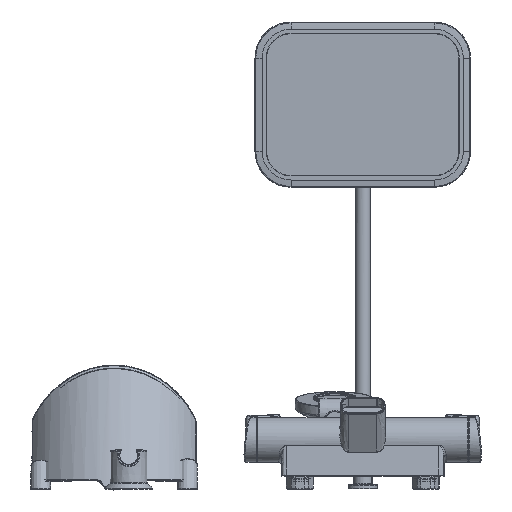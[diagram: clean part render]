
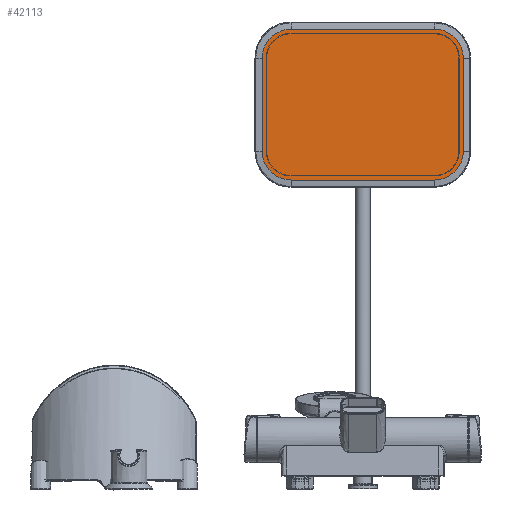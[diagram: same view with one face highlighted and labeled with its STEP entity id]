
A CAD part, front view. The second image highlights one B-rep face of the part: STEP entity #42113.
In plain terms, the highlighted planar face has unit normal (0, -1, 0).
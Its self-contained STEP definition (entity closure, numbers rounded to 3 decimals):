
#1506 = ORIENTED_EDGE ( 'NONE', *, *, #32094, .T. ) ;
#1557 = VERTEX_POINT ( 'NONE', #19048 ) ;
#2174 = VECTOR ( 'NONE', #14432, 1000. ) ;
#2341 = LINE ( 'NONE', #7480, #2174 ) ;
#3156 = CARTESIAN_POINT ( 'NONE',  ( -85.5, 1280.674, 514. ) ) ;
#3190 = DIRECTION ( 'NONE',  ( 0., 1., 0. ) ) ;
#4086 = CARTESIAN_POINT ( 'NONE',  ( -85.5, 1280.674, 403. ) ) ;
#6065 = CARTESIAN_POINT ( 'NONE',  ( 119.898, 1280.674, 514. ) ) ;
#6649 = DIRECTION ( 'NONE',  ( 0., 0., -1. ) ) ;
#7041 = CARTESIAN_POINT ( 'NONE',  ( -119.898, 1280.674, 514. ) ) ;
#7209 = ORIENTED_EDGE ( 'NONE', *, *, #20896, .T. ) ;
#7480 = CARTESIAN_POINT ( 'NONE',  ( 119.898, 1280.674, 514. ) ) ;
#7587 = DIRECTION ( 'NONE',  ( 0., 0., -1. ) ) ;
#7867 = EDGE_CURVE ( 'NONE', #1557, #44023, #38136, .T. ) ;
#8332 = VECTOR ( 'NONE', #13492, 1000. ) ;
#8459 = DIRECTION ( 'NONE',  ( 0., -1., 0. ) ) ;
#8538 = LINE ( 'NONE', #13185, #8332 ) ;
#9285 = ORIENTED_EDGE ( 'NONE', *, *, #24033, .T. ) ;
#9741 = ORIENTED_EDGE ( 'NONE', *, *, #7867, .T. ) ;
#10513 = DIRECTION ( 'NONE',  ( 0., 0., -1. ) ) ;
#11192 = ORIENTED_EDGE ( 'NONE', *, *, #35080, .T. ) ;
#11506 = VERTEX_POINT ( 'NONE', #43691 ) ;
#13185 = CARTESIAN_POINT ( 'NONE',  ( 85.5, 1280.674, 548.398 ) ) ;
#13492 = DIRECTION ( 'NONE',  ( -1., 0., 0. ) ) ;
#14432 = DIRECTION ( 'NONE',  ( 0., 0., 1. ) ) ;
#14461 = VERTEX_POINT ( 'NONE', #6065 ) ;
#15212 = ORIENTED_EDGE ( 'NONE', *, *, #16982, .T. ) ;
#15899 = CIRCLE ( 'NONE', #16852, 34.398 ) ;
#16837 = ORIENTED_EDGE ( 'NONE', *, *, #27850, .T. ) ;
#16852 = AXIS2_PLACEMENT_3D ( 'NONE', #20007, #44033, #23505 ) ;
#16982 = EDGE_CURVE ( 'NONE', #44023, #32919, #15899, .T. ) ;
#17896 = ORIENTED_EDGE ( 'NONE', *, *, #38082, .T. ) ;
#18773 = VERTEX_POINT ( 'NONE', #27894 ) ;
#19048 = CARTESIAN_POINT ( 'NONE',  ( -85.5, 1280.674, 368.602 ) ) ;
#20007 = CARTESIAN_POINT ( 'NONE',  ( 85.5, 1280.674, 403. ) ) ;
#20101 = DIRECTION ( 'NONE',  ( 1., 0., 0. ) ) ;
#20896 = EDGE_CURVE ( 'NONE', #25805, #33385, #8538, .T. ) ;
#21448 = AXIS2_PLACEMENT_3D ( 'NONE', #4086, #28355, #7587 ) ;
#21718 = CIRCLE ( 'NONE', #21448, 34.398 ) ;
#22764 = CARTESIAN_POINT ( 'NONE',  ( 119.898, 1280.674, 403. ) ) ;
#23505 = DIRECTION ( 'NONE',  ( 0., 0., -1. ) ) ;
#24033 = EDGE_CURVE ( 'NONE', #32919, #14461, #2341, .T. ) ;
#25805 = VERTEX_POINT ( 'NONE', #26629 ) ;
#26629 = CARTESIAN_POINT ( 'NONE',  ( 85.5, 1280.674, 548.398 ) ) ;
#26880 = CIRCLE ( 'NONE', #38093, 34.398 ) ;
#27419 = DIRECTION ( 'NONE',  ( 0., -1., 0. ) ) ;
#27454 = DIRECTION ( 'NONE',  ( 0., 0., -1. ) ) ;
#27850 = EDGE_CURVE ( 'NONE', #14461, #25805, #40095, .T. ) ;
#27894 = CARTESIAN_POINT ( 'NONE',  ( -119.898, 1280.674, 514. ) ) ;
#28355 = DIRECTION ( 'NONE',  ( 0., -1., 0. ) ) ;
#29215 = CARTESIAN_POINT ( 'NONE',  ( 85.5, 1280.674, 514. ) ) ;
#29244 = FACE_OUTER_BOUND ( 'NONE', #41408, .T. ) ;
#31952 = VECTOR ( 'NONE', #10513, 1000. ) ;
#32094 = EDGE_CURVE ( 'NONE', #18773, #11506, #32220, .T. ) ;
#32220 = LINE ( 'NONE', #7041, #31952 ) ;
#32671 = DIRECTION ( 'NONE',  ( 0., 0., -1. ) ) ;
#32919 = VERTEX_POINT ( 'NONE', #22764 ) ;
#33385 = VERTEX_POINT ( 'NONE', #40145 ) ;
#33598 = CARTESIAN_POINT ( 'NONE',  ( 128.5, 1280.674, 363.023 ) ) ;
#33844 = CARTESIAN_POINT ( 'NONE',  ( 85.5, 1280.674, 368.602 ) ) ;
#35080 = EDGE_CURVE ( 'NONE', #33385, #18773, #26880, .T. ) ;
#37808 = VECTOR ( 'NONE', #20101, 1000. ) ;
#38082 = EDGE_CURVE ( 'NONE', #11506, #1557, #21718, .T. ) ;
#38093 = AXIS2_PLACEMENT_3D ( 'NONE', #3156, #27419, #6649 ) ;
#38136 = LINE ( 'NONE', #33844, #37808 ) ;
#38730 = CARTESIAN_POINT ( 'NONE',  ( 85.5, 1280.674, 368.602 ) ) ;
#39958 = AXIS2_PLACEMENT_3D ( 'NONE', #33598, #3190, #27454 ) ;
#40095 = CIRCLE ( 'NONE', #44259, 34.398 ) ;
#40145 = CARTESIAN_POINT ( 'NONE',  ( -85.5, 1280.674, 548.398 ) ) ;
#41408 = EDGE_LOOP ( 'NONE', ( #9285, #16837, #7209, #11192, #1506, #17896, #9741, #15212 ) ) ;
#42113 = ADVANCED_FACE ( 'NONE', ( #29244 ), #43882, .F. ) ;
#43691 = CARTESIAN_POINT ( 'NONE',  ( -119.898, 1280.674, 403. ) ) ;
#43882 = PLANE ( 'NONE',  #39958 ) ;
#44023 = VERTEX_POINT ( 'NONE', #38730 ) ;
#44033 = DIRECTION ( 'NONE',  ( 0., -1., 0. ) ) ;
#44259 = AXIS2_PLACEMENT_3D ( 'NONE', #29215, #8459, #32671 ) ;
